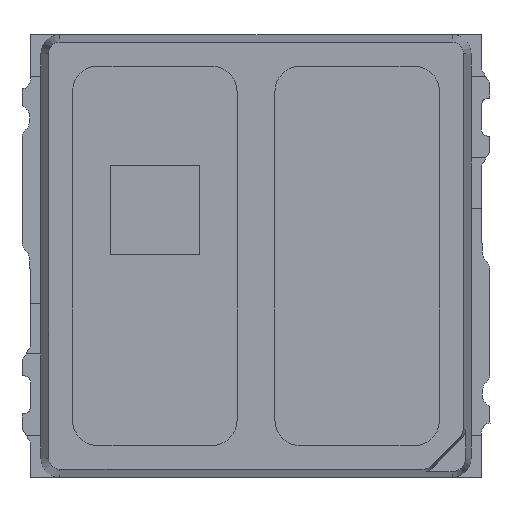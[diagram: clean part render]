
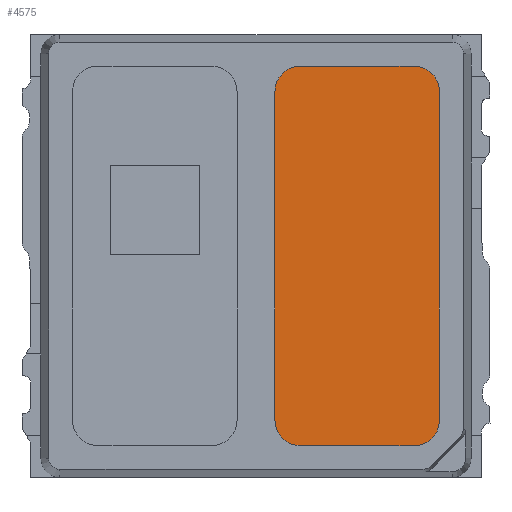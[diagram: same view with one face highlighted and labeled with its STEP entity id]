
A CAD part, top view. The second image highlights one B-rep face of the part: STEP entity #4575.
In plain terms, the highlighted planar face has unit normal (0, 0, 1).
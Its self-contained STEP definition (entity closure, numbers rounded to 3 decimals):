
#23 = DIRECTION ( 'NONE',  ( 0., 1., 0. ) ) ;
#148 = CARTESIAN_POINT ( 'NONE',  ( 0.15, 1.324, 0.5 ) ) ;
#193 = CARTESIAN_POINT ( 'NONE',  ( 0.159, 1.375, 0.5 ) ) ;
#907 = CARTESIAN_POINT ( 'NONE',  ( 1.45, -1.3, 0.5 ) ) ;
#1073 = VERTEX_POINT ( 'NONE', #9014 ) ;
#1315 = VERTEX_POINT ( 'NONE', #907 ) ;
#1404 = VECTOR ( 'NONE', #2865, 1000. ) ;
#1459 = LINE ( 'NONE', #1499, #6953 ) ;
#1483 = CARTESIAN_POINT ( 'NONE',  ( 1.45, -1.3, 0.5 ) ) ;
#1499 = CARTESIAN_POINT ( 'NONE',  ( 1.45, -1.3, 0.5 ) ) ;
#1502 = CARTESIAN_POINT ( 'NONE',  ( 1.25, 1.5, 0.5 ) ) ;
#1611 = VERTEX_POINT ( 'NONE', #4535 ) ;
#1721 = VERTEX_POINT ( 'NONE', #2686 ) ;
#2215 = EDGE_CURVE ( 'NONE', #1721, #8773, #4186, .T. ) ;
#2331 = ORIENTED_EDGE ( 'NONE', *, *, #7037, .T. ) ;
#2565 = VECTOR ( 'NONE', #6687, 1000. ) ;
#2686 = CARTESIAN_POINT ( 'NONE',  ( 0.35, 1.5, 0.5 ) ) ;
#2715 = ORIENTED_EDGE ( 'NONE', *, *, #4599, .T. ) ;
#2728 = VERTEX_POINT ( 'NONE', #7701 ) ;
#2753 = LINE ( 'NONE', #8857, #2565 ) ;
#2801 = VERTEX_POINT ( 'NONE', #1502 ) ;
#2835 = ORIENTED_EDGE ( 'NONE', *, *, #10017, .T. ) ;
#2865 = DIRECTION ( 'NONE',  ( 1., 0., 0. ) ) ;
#2928 = CARTESIAN_POINT ( 'NONE',  ( 1.441, 1.375, 0.5 ) ) ;
#3048 = EDGE_CURVE ( 'NONE', #1073, #1315, #7618, .T. ) ;
#3222 = CARTESIAN_POINT ( 'NONE',  ( 0.159, -1.375, 0.5 ) ) ;
#3267 = CARTESIAN_POINT ( 'NONE',  ( 0.35, 1.5, 0.5 ) ) ;
#3824 = CARTESIAN_POINT ( 'NONE',  ( 1.25, -1.5, 0.5 ) ) ;
#3874 = CARTESIAN_POINT ( 'NONE',  ( 0.15, -1.3, 0.5 ) ) ;
#3922 = CARTESIAN_POINT ( 'NONE',  ( 0.204, -1.446, 0.5 ) ) ;
#4004 = B_SPLINE_CURVE_WITH_KNOTS ( 'NONE', 3,
 ( #3874, #7786, #3222, #3922, #6958, #6338, #7833 ),
 .UNSPECIFIED., .F., .F.,
 ( 4, 1, 1, 1, 4 ),
 ( 0., 0.25, 0.5, 0.75, 1. ),
 .UNSPECIFIED. ) ;
#4033 = CARTESIAN_POINT ( 'NONE',  ( 1.325, -1.491, 0.5 ) ) ;
#4186 = B_SPLINE_CURVE_WITH_KNOTS ( 'NONE', 3,
 ( #3267, #8035, #8862, #6594, #193, #148, #9653 ),
 .UNSPECIFIED., .F., .F.,
 ( 4, 1, 1, 1, 4 ),
 ( 0., 0.25, 0.5, 0.75, 1. ),
 .UNSPECIFIED. ) ;
#4423 = DIRECTION ( 'NONE',  ( -1., 0., 0. ) ) ;
#4535 = CARTESIAN_POINT ( 'NONE',  ( 0.35, -1.5, 0.5 ) ) ;
#4562 = CARTESIAN_POINT ( 'NONE',  ( 1.274, 1.5, 0.5 ) ) ;
#4575 = ADVANCED_FACE ( 'NONE', ( #4843 ), #8335, .T. ) ;
#4599 = EDGE_CURVE ( 'NONE', #2801, #1721, #6634, .T. ) ;
#4799 = CARTESIAN_POINT ( 'NONE',  ( 1.441, -1.375, 0.5 ) ) ;
#4843 = FACE_OUTER_BOUND ( 'NONE', #6150, .T. ) ;
#5087 = CARTESIAN_POINT ( 'NONE',  ( 1.25, 1.5, 0.5 ) ) ;
#5110 = AXIS2_PLACEMENT_3D ( 'NONE', #5864, #9988, #7611 ) ;
#5166 = LINE ( 'NONE', #6749, #1404 ) ;
#5309 = B_SPLINE_CURVE_WITH_KNOTS ( 'NONE', 3,
 ( #10126, #7737, #2928, #9339, #9184, #4562, #8572 ),
 .UNSPECIFIED., .F., .F.,
 ( 4, 1, 1, 1, 4 ),
 ( 0., 0.25, 0.5, 0.75, 1. ),
 .UNSPECIFIED. ) ;
#5437 = VECTOR ( 'NONE', #4423, 1000. ) ;
#5474 = CARTESIAN_POINT ( 'NONE',  ( 1.396, -1.446, 0.5 ) ) ;
#5864 = CARTESIAN_POINT ( 'NONE',  ( 0.209, -1.441, 0.5 ) ) ;
#5998 = VERTEX_POINT ( 'NONE', #6275 ) ;
#6150 = EDGE_LOOP ( 'NONE', ( #7432, #2331, #8924, #9084, #8361, #2715, #9690, #2835 ) ) ;
#6275 = CARTESIAN_POINT ( 'NONE',  ( 0.15, -1.3, 0.5 ) ) ;
#6338 = CARTESIAN_POINT ( 'NONE',  ( 0.326, -1.5, 0.5 ) ) ;
#6594 = CARTESIAN_POINT ( 'NONE',  ( 0.204, 1.446, 0.5 ) ) ;
#6634 = LINE ( 'NONE', #5087, #5437 ) ;
#6687 = DIRECTION ( 'NONE',  ( 0., -1., 0. ) ) ;
#6749 = CARTESIAN_POINT ( 'NONE',  ( 1.25, -1.5, 0.5 ) ) ;
#6953 = VECTOR ( 'NONE', #23, 1000. ) ;
#6958 = CARTESIAN_POINT ( 'NONE',  ( 0.275, -1.491, 0.5 ) ) ;
#6959 = CARTESIAN_POINT ( 'NONE',  ( 1.274, -1.5, 0.5 ) ) ;
#7037 = EDGE_CURVE ( 'NONE', #1611, #1073, #5166, .T. ) ;
#7071 = EDGE_CURVE ( 'NONE', #5998, #1611, #4004, .T. ) ;
#7432 = ORIENTED_EDGE ( 'NONE', *, *, #7071, .T. ) ;
#7611 = DIRECTION ( 'NONE',  ( 1., 0., 0. ) ) ;
#7618 = B_SPLINE_CURVE_WITH_KNOTS ( 'NONE', 3,
 ( #3824, #6959, #4033, #5474, #4799, #8709, #1483 ),
 .UNSPECIFIED., .F., .F.,
 ( 4, 1, 1, 1, 4 ),
 ( 0., 0.25, 0.5, 0.75, 1. ),
 .UNSPECIFIED. ) ;
#7701 = CARTESIAN_POINT ( 'NONE',  ( 1.45, 1.3, 0.5 ) ) ;
#7737 = CARTESIAN_POINT ( 'NONE',  ( 1.45, 1.324, 0.5 ) ) ;
#7786 = CARTESIAN_POINT ( 'NONE',  ( 0.15, -1.324, 0.5 ) ) ;
#7833 = CARTESIAN_POINT ( 'NONE',  ( 0.35, -1.5, 0.5 ) ) ;
#8035 = CARTESIAN_POINT ( 'NONE',  ( 0.326, 1.5, 0.5 ) ) ;
#8178 = CARTESIAN_POINT ( 'NONE',  ( 0.15, 1.3, 0.5 ) ) ;
#8335 = PLANE ( 'NONE',  #5110 ) ;
#8361 = ORIENTED_EDGE ( 'NONE', *, *, #9487, .T. ) ;
#8572 = CARTESIAN_POINT ( 'NONE',  ( 1.25, 1.5, 0.5 ) ) ;
#8709 = CARTESIAN_POINT ( 'NONE',  ( 1.45, -1.324, 0.5 ) ) ;
#8773 = VERTEX_POINT ( 'NONE', #8178 ) ;
#8857 = CARTESIAN_POINT ( 'NONE',  ( 0.15, -1.3, 0.5 ) ) ;
#8862 = CARTESIAN_POINT ( 'NONE',  ( 0.275, 1.491, 0.5 ) ) ;
#8924 = ORIENTED_EDGE ( 'NONE', *, *, #3048, .T. ) ;
#9014 = CARTESIAN_POINT ( 'NONE',  ( 1.25, -1.5, 0.5 ) ) ;
#9084 = ORIENTED_EDGE ( 'NONE', *, *, #9162, .T. ) ;
#9162 = EDGE_CURVE ( 'NONE', #1315, #2728, #1459, .T. ) ;
#9184 = CARTESIAN_POINT ( 'NONE',  ( 1.325, 1.491, 0.5 ) ) ;
#9339 = CARTESIAN_POINT ( 'NONE',  ( 1.396, 1.446, 0.5 ) ) ;
#9487 = EDGE_CURVE ( 'NONE', #2728, #2801, #5309, .T. ) ;
#9653 = CARTESIAN_POINT ( 'NONE',  ( 0.15, 1.3, 0.5 ) ) ;
#9690 = ORIENTED_EDGE ( 'NONE', *, *, #2215, .T. ) ;
#9988 = DIRECTION ( 'NONE',  ( 0., 0., 1. ) ) ;
#10017 = EDGE_CURVE ( 'NONE', #8773, #5998, #2753, .T. ) ;
#10126 = CARTESIAN_POINT ( 'NONE',  ( 1.45, 1.3, 0.5 ) ) ;
